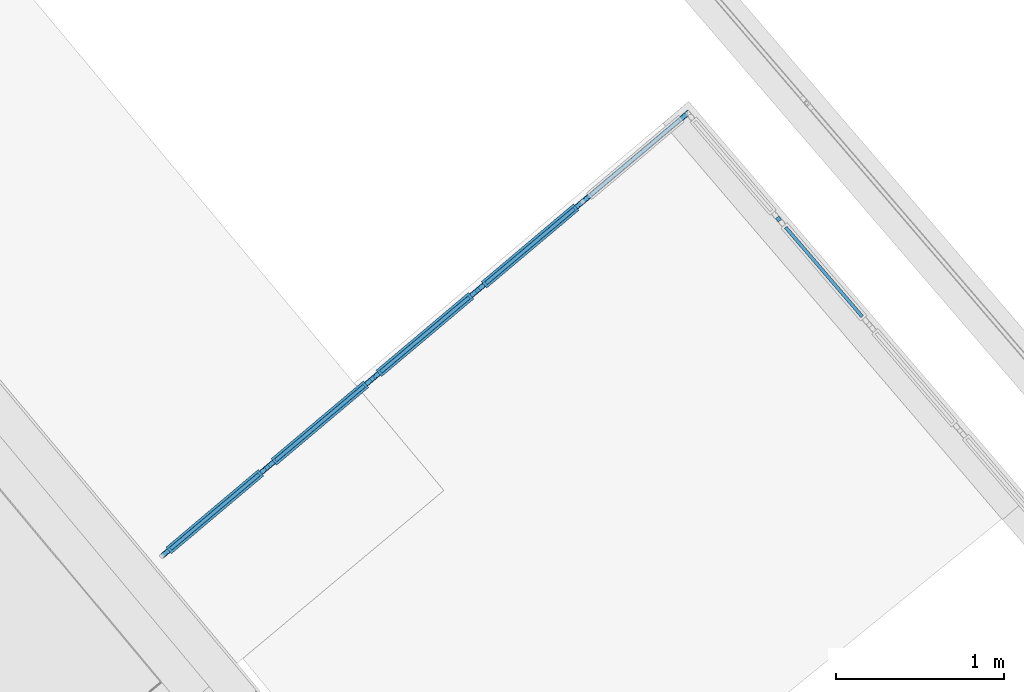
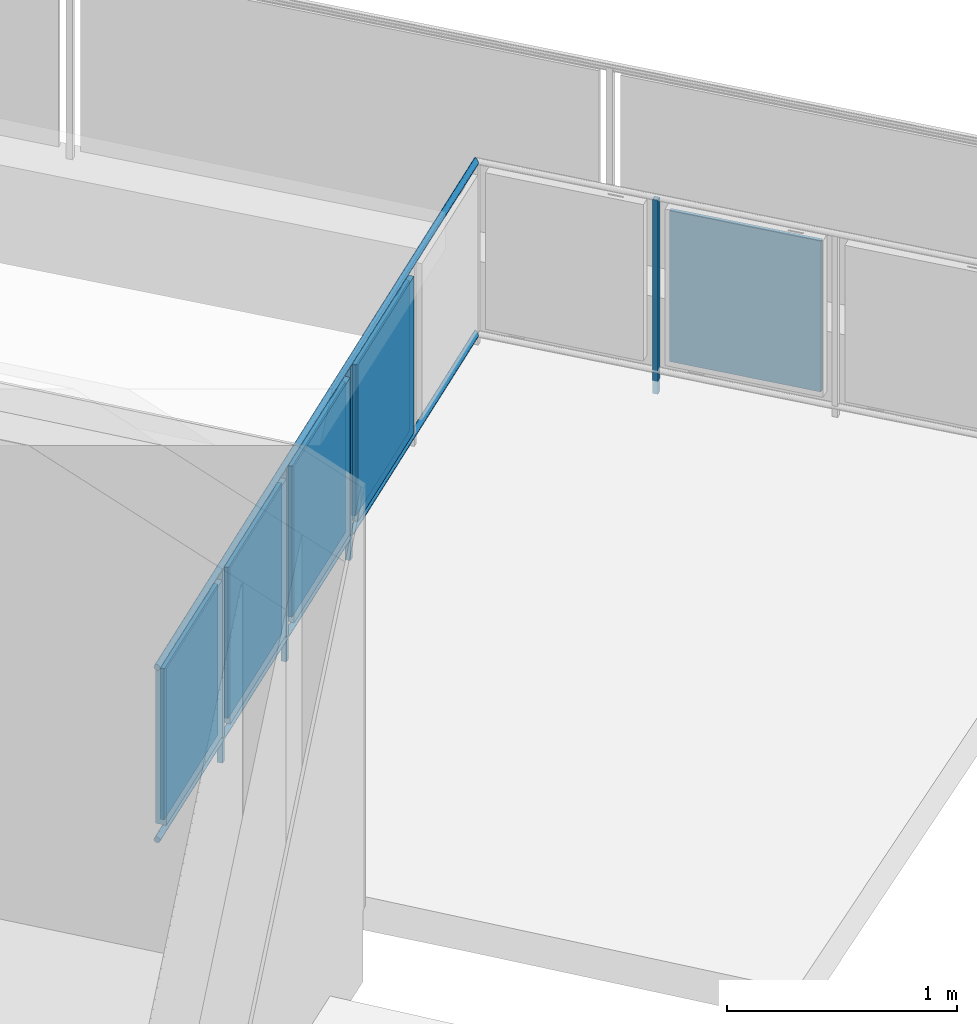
# One storey, part 49 of 75: 15 building element parts, 1 element without a shape of its own.
"""IFC4 building model written with IfcOpenShell, lengths in metres."""

from ifc_helpers import new_model, entity, si_unit, converted_unit, derived_unit, direction, frame, origin_with_axes, place, context, subcontext, project, spatial, polygons, material, type_object, element, aggregate, save


model = new_model("IFC4")

# Units and contexts
model_context = context("Model", 3, precision=1e-05, world=origin_with_axes(), true_north=direction((0.0, 1.0)))
body_context = subcontext(model_context, "Body", "Model", "MODEL_VIEW")
ifc_project = project(units=[si_unit("LENGTHUNIT", "METRE"), si_unit("AREAUNIT", "SQUARE_METRE"), si_unit("VOLUMEUNIT", "CUBIC_METRE"), converted_unit("PLANEANGLEUNIT", "DEGREE", entity("IfcPlaneAngleMeasure", 0.0174532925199), si_unit("PLANEANGLEUNIT", "RADIAN"), dimensions=[0, 0, 0, 0, 0, 0, 0]), converted_unit("TIMEUNIT", "Year", entity("IfcTimeMeasure", 31556926.0), si_unit("TIMEUNIT", "SECOND"), dimensions=[0, 0, 1, 0, 0, 0, 0]), si_unit("MASSUNIT", "GRAM", prefix="KILO"), si_unit("THERMODYNAMICTEMPERATUREUNIT", "DEGREE_CELSIUS"), si_unit("LUMINOUSINTENSITYUNIT", "LUMEN"), si_unit("ENERGYUNIT", "JOULE", prefix="MEGA"), derived_unit("THERMALCONDUCTANCEUNIT", [(si_unit("POWERUNIT", "WATT"), 1), (si_unit("LENGTHUNIT", "METRE"), -1), (si_unit("THERMODYNAMICTEMPERATUREUNIT", "KELVIN"), -1)]), derived_unit("SPECIFICHEATCAPACITYUNIT", [(si_unit("ENERGYUNIT", "JOULE"), 1), (si_unit("MASSUNIT", "GRAM", prefix="KILO"), -1), (si_unit("THERMODYNAMICTEMPERATUREUNIT", "KELVIN"), -1)]), derived_unit("MASSDENSITYUNIT", [(si_unit("MASSUNIT", "GRAM", prefix="KILO"), 1), (si_unit("VOLUMEUNIT", "CUBIC_METRE"), -1)])], contexts=[model_context])

# Site, building, storey, space
site_placement = place(None, frame((-0.00153261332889, -0.00661245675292, 0.0), z_axis=(0.0, 0.0, 1.0), x_axis=(1.0, 0.0, 0.0)))
site = spatial("IfcSite", under=ifc_project, at=site_placement, Name="Gelände", CompositionType="ELEMENT")
building_placement = place(site_placement, origin_with_axes())
building = spatial("IfcBuilding", under=site, at=building_placement, Name="Gebäude", CompositionType="ELEMENT")
storey_placement = place(building_placement, frame((0.0, 0.0, -0.22), z_axis=(0.0, 0.0, 1.0), x_axis=(1.0, 0.0, 0.0)))
storey = spatial("IfcBuildingStorey", under=building, at=storey_placement, Name="EG", CompositionType="ELEMENT", Elevation=-0.22)
space_placement = place(storey_placement, frame((13.4528825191, 20.3252443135, 0.0), z_axis=(0.0, 0.0, 1.0), x_axis=(-0.766923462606, -0.641738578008, 0.0)))
space = spatial("IfcSpace", under=storey, at=space_placement, CompositionType="ELEMENT", PredefinedType="NOTDEFINED")

# Railing, building element parts
railing_type = type_object("IfcRailingType", Name="Geländerart", PredefinedType="NOTDEFINED")
railing_placement = place(space_placement, frame((0.00343914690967, -1.03835442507, 0.38), z_axis=(0.0, 0.0, 1.0), x_axis=(-0.766923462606, 0.641738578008, 0.0)))
railing = element("IfcRailing", 1, at=railing_placement, inside=space, type_object=railing_type, Name="Geländer - 001", PredefinedType="NOTDEFINED")
ifc_material_1 = material(Name="Aluminium")
building_element_part_1_placement = place(railing_placement, origin_with_axes())
building_element_part_1 = element("IfcBuildingElementPart", 2, at=building_element_part_1_placement, material=ifc_material_1, Name="Aluminium", PredefinedType="NOTDEFINED", context=body_context, shape_type="Tessellation", body=[
    polygons([(0.022549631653, -0.0267677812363, 0.985), (0.0226964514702, -0.0269420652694, 0.987604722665), (3.15352079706, 2.61051731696, 0.987604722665), (3.15354671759, 2.61083712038, 0.985), (0.0226964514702, -0.0269420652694, 0.982395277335), (0.0231324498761, -0.0274596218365, 0.97986969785), (0.0238443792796, -0.0283047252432, 0.9775), (0.0248106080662, -0.0294516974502, 0.975358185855), (0.026001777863, -0.0308656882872, 0.973509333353), (0.0273816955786, -0.0325037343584, 0.972009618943), (0.0289084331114, -0.0343160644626, 0.970904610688), (0.0305356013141, -0.0362476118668, 0.970227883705), (0.0322137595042, -0.0382396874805, 0.97), (0.0338919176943, -0.0402317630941, 0.970227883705), (0.035519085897, -0.0421633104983, 0.970904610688), (0.0370458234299, -0.0439756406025, 0.972009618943), (0.0384257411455, -0.0456136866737, 0.973509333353), (0.0396169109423, -0.0470276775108, 0.975358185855), (0.0405831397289, -0.0481746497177, 0.9775), (0.0412950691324, -0.0490197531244, 0.97986969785), (0.0417310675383, -0.0495373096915, 0.982395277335), (0.0418778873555, -0.0497115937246, 0.985), (0.0417310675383, -0.0495373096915, 0.987604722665), (0.0412950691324, -0.0490197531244, 0.99013030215), (0.0405831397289, -0.0481746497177, 0.9925), (0.0396169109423, -0.0470276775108, 0.994641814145), (0.0384257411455, -0.0456136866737, 0.996490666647), (0.0370458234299, -0.0439756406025, 0.997990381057), (0.035519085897, -0.0421633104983, 0.999095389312), (0.0338919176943, -0.0402317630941, 0.999772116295), (0.0322137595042, -0.0382396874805, 1.0), (0.0305356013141, -0.0362476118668, 0.999772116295), (0.0289084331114, -0.0343160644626, 0.999095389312), (0.0273816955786, -0.0325037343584, 0.997990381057), (0.026001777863, -0.0308656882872, 0.996490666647), (0.0248106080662, -0.0294516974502, 0.994641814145), (0.0238443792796, -0.0283047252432, 0.9925), (0.0231324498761, -0.0274596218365, 0.99013030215), (3.15344382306, 2.60956762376, 0.99013030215), (3.1533181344, 2.60801689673, 0.9925), (3.15314755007, 2.60591225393, 0.994641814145), (3.15293725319, 2.60331764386, 0.996490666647), (3.15269363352, 2.60031190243, 0.997990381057), (3.15242409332, 2.59698635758, 0.999095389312), (3.15213682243, 2.59344205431, 0.999772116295), (3.15184054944, 2.58978668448, 1.0), (3.15154427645, 2.58613131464, 0.999772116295), (3.15125700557, 2.58258701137, 0.999095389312), (3.15098746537, 2.57926146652, 0.997990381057), (3.15074384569, 2.57625572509, 0.996490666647), (3.15053354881, 2.57366111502, 0.994641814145), (3.15036296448, 2.57155647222, 0.9925), (3.15023727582, 2.57000574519, 0.99013030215), (3.15016030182, 2.56905605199, 0.987604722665), (3.15013438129, 2.56873624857, 0.985), (3.15016030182, 2.56905605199, 0.982395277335), (3.15023727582, 2.57000574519, 0.97986969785), (3.15036296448, 2.57155647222, 0.9775), (3.15053354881, 2.57366111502, 0.975358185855), (3.15074384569, 2.57625572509, 0.973509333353), (3.15098746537, 2.57926146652, 0.972009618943), (3.15125700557, 2.58258701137, 0.970904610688), (3.15154427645, 2.58613131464, 0.970227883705), (3.15184054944, 2.58978668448, 0.97), (3.15213682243, 2.59344205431, 0.970227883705), (3.15242409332, 2.59698635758, 0.970904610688), (3.15269363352, 2.60031190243, 0.972009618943), (3.15293725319, 2.60331764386, 0.973509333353), (3.15314755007, 2.60591225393, 0.975358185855), (3.1533181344, 2.60801689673, 0.9775), (3.15344382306, 2.60956762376, 0.97986969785), (3.15352079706, 2.61051731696, 0.982395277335)], [[[1, 2, 3, 4]], [[1, 5, 6, 7, 8, 9, 10, 11, 12, 13, 14, 15, 16, 17, 18, 19, 20, 21, 22, 23, 24, 25, 26, 27, 28, 29, 30, 31, 32, 33, 34, 35, 36, 37, 38, 2]], [[2, 38, 39, 3]], [[4, 3, 39, 40, 41, 42, 43, 44, 45, 46, 47, 48, 49, 50, 51, 52, 53, 54, 55, 56, 57, 58, 59, 60, 61, 62, 63, 64, 65, 66, 67, 68, 69, 70, 71, 72]], [[5, 1, 4, 72]], [[6, 5, 72, 71]], [[7, 6, 71, 70]], [[8, 7, 70, 69]], [[9, 8, 69, 68]], [[10, 9, 68, 67]], [[11, 10, 67, 66]], [[12, 11, 66, 65]], [[13, 12, 65, 64]], [[14, 13, 64, 63]], [[15, 14, 63, 62]], [[16, 15, 62, 61]], [[17, 16, 61, 60]], [[18, 17, 60, 59]], [[19, 18, 59, 58]], [[20, 19, 58, 57]], [[21, 20, 57, 56]], [[22, 21, 56, 55]], [[23, 22, 55, 54]], [[24, 23, 54, 53]], [[25, 24, 53, 52]], [[26, 25, 52, 51]], [[27, 26, 51, 50]], [[28, 27, 50, 49]], [[29, 28, 49, 48]], [[30, 29, 48, 47]], [[31, 30, 47, 46]], [[32, 31, 46, 45]], [[33, 32, 45, 44]], [[34, 33, 44, 43]], [[35, 34, 43, 42]], [[36, 35, 42, 41]], [[37, 36, 41, 40]], [[38, 37, 40, 39]]], closed=True),
])
building_element_part_2_placement = place(railing_placement, origin_with_axes())
building_element_part_2 = element("IfcBuildingElementPart", 3, at=building_element_part_2_placement, material=ifc_material_1, Name="Aluminium", PredefinedType="NOTDEFINED", context=body_context, shape_type="Tessellation", body=[
    polygons([(0.022549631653, -0.0267677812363, 0.07), (0.0226964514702, -0.0269420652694, 0.072604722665), (3.15352079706, 2.61051731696, 0.072604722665), (3.15354671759, 2.61083712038, 0.07), (0.0226964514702, -0.0269420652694, 0.067395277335), (0.0231324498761, -0.0274596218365, 0.0648696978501), (0.0238443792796, -0.0283047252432, 0.0625), (0.0248106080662, -0.0294516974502, 0.0603581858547), (0.026001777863, -0.0308656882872, 0.0585093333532), (0.0273816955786, -0.0325037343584, 0.0570096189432), (0.0289084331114, -0.0343160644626, 0.0559046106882), (0.0305356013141, -0.0362476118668, 0.0552278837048), (0.0322137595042, -0.0382396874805, 0.055), (0.0338919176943, -0.0402317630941, 0.0552278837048), (0.035519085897, -0.0421633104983, 0.0559046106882), (0.0370458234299, -0.0439756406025, 0.0570096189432), (0.0384257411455, -0.0456136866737, 0.0585093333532), (0.0396169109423, -0.0470276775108, 0.0603581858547), (0.0405831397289, -0.0481746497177, 0.0625), (0.0412950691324, -0.0490197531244, 0.0648696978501), (0.0417310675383, -0.0495373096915, 0.067395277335), (0.0418778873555, -0.0497115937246, 0.07), (0.0417310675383, -0.0495373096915, 0.072604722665), (0.0412950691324, -0.0490197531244, 0.0751303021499), (0.0405831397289, -0.0481746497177, 0.0775), (0.0396169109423, -0.0470276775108, 0.0796418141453), (0.0384257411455, -0.0456136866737, 0.0814906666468), (0.0370458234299, -0.0439756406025, 0.0829903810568), (0.035519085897, -0.0421633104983, 0.0840953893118), (0.0338919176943, -0.0402317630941, 0.0847721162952), (0.0322137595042, -0.0382396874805, 0.085), (0.0305356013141, -0.0362476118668, 0.0847721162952), (0.0289084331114, -0.0343160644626, 0.0840953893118), (0.0273816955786, -0.0325037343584, 0.0829903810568), (0.026001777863, -0.0308656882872, 0.0814906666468), (0.0248106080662, -0.0294516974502, 0.0796418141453), (0.0238443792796, -0.0283047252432, 0.0775), (0.0231324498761, -0.0274596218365, 0.0751303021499), (3.15344382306, 2.60956762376, 0.0751303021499), (3.1533181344, 2.60801689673, 0.0775), (3.15314755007, 2.60591225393, 0.0796418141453), (3.15293725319, 2.60331764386, 0.0814906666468), (3.15269363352, 2.60031190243, 0.0829903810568), (3.15242409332, 2.59698635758, 0.0840953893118), (3.15213682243, 2.59344205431, 0.0847721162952), (3.15184054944, 2.58978668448, 0.085), (3.15154427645, 2.58613131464, 0.0847721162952), (3.15125700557, 2.58258701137, 0.0840953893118), (3.15098746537, 2.57926146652, 0.0829903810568), (3.15074384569, 2.57625572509, 0.0814906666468), (3.15053354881, 2.57366111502, 0.0796418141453), (3.15036296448, 2.57155647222, 0.0775), (3.15023727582, 2.57000574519, 0.0751303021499), (3.15016030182, 2.56905605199, 0.072604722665), (3.15013438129, 2.56873624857, 0.07), (3.15016030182, 2.56905605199, 0.067395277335), (3.15023727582, 2.57000574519, 0.0648696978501), (3.15036296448, 2.57155647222, 0.0625), (3.15053354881, 2.57366111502, 0.0603581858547), (3.15074384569, 2.57625572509, 0.0585093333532), (3.15098746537, 2.57926146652, 0.0570096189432), (3.15125700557, 2.58258701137, 0.0559046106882), (3.15154427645, 2.58613131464, 0.0552278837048), (3.15184054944, 2.58978668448, 0.055), (3.15213682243, 2.59344205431, 0.0552278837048), (3.15242409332, 2.59698635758, 0.0559046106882), (3.15269363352, 2.60031190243, 0.0570096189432), (3.15293725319, 2.60331764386, 0.0585093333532), (3.15314755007, 2.60591225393, 0.0603581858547), (3.1533181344, 2.60801689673, 0.0625), (3.15344382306, 2.60956762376, 0.0648696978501), (3.15352079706, 2.61051731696, 0.067395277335)], [[[1, 2, 3, 4]], [[1, 5, 6, 7, 8, 9, 10, 11, 12, 13, 14, 15, 16, 17, 18, 19, 20, 21, 22, 23, 24, 25, 26, 27, 28, 29, 30, 31, 32, 33, 34, 35, 36, 37, 38, 2]], [[2, 38, 39, 3]], [[4, 3, 39, 40, 41, 42, 43, 44, 45, 46, 47, 48, 49, 50, 51, 52, 53, 54, 55, 56, 57, 58, 59, 60, 61, 62, 63, 64, 65, 66, 67, 68, 69, 70, 71, 72]], [[5, 1, 4, 72]], [[6, 5, 72, 71]], [[7, 6, 71, 70]], [[8, 7, 70, 69]], [[9, 8, 69, 68]], [[10, 9, 68, 67]], [[11, 10, 67, 66]], [[12, 11, 66, 65]], [[13, 12, 65, 64]], [[14, 13, 64, 63]], [[15, 14, 63, 62]], [[16, 15, 62, 61]], [[17, 16, 61, 60]], [[18, 17, 60, 59]], [[19, 18, 59, 58]], [[20, 19, 58, 57]], [[21, 20, 57, 56]], [[22, 21, 56, 55]], [[23, 22, 55, 54]], [[24, 23, 54, 53]], [[25, 24, 53, 52]], [[26, 25, 52, 51]], [[27, 26, 51, 50]], [[28, 27, 50, 49]], [[29, 28, 49, 48]], [[30, 29, 48, 47]], [[31, 30, 47, 46]], [[32, 31, 46, 45]], [[33, 32, 45, 44]], [[34, 33, 44, 43]], [[35, 34, 43, 42]], [[36, 35, 42, 41]], [[37, 36, 41, 40]], [[38, 37, 40, 39]]], closed=True),
])
ifc_material_2 = material(Name="Profilit")
building_element_part_3_placement = place(railing_placement, origin_with_axes())
building_element_part_3 = element("IfcBuildingElementPart", 4, at=building_element_part_3_placement, material=ifc_material_2, Name="Profilit", PredefinedType="NOTDEFINED", context=body_context, shape_type="Tessellation", body=[
    polygons([(0.599984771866, 0.453135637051, 0.135), (0.075482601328, 0.0112861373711, 0.135), (0.075482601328, 0.0112861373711, 0.935), (0.599984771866, 0.453135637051, 0.935), (0.0883681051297, -0.00400973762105, 0.135), (0.612870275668, 0.437839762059, 0.135), (0.0883681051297, -0.00400973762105, 0.935), (0.612870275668, 0.437839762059, 0.935)], [[[1, 2, 3, 4]], [[5, 2, 1, 6]], [[7, 3, 2, 5]], [[4, 3, 7, 8]], [[1, 4, 8, 6]], [[7, 5, 6, 8]]], closed=True),
])
building_element_part_4_placement = place(railing_placement, origin_with_axes())
building_element_part_4 = element("IfcBuildingElementPart", 5, at=building_element_part_4_placement, material=ifc_material_1, Name="Aluminium", PredefinedType="NOTDEFINED", context=body_context, shape_type="Tessellation", body=[
    polygons([(0.14532213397, 0.0603135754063, 0.12), (0.198857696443, 0.105412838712, 0.12), (0.198857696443, 0.105412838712, 0.095), (0.14532213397, 0.0603135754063, 0.095), (0.148543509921, 0.0564896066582, 0.12), (0.202079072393, 0.101588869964, 0.12), (0.202079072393, 0.101588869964, 0.095), (0.148543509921, 0.0564896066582, 0.095)], [[[1, 2, 3, 4]], [[5, 6, 2, 1]], [[2, 6, 7, 3]], [[4, 3, 7, 8]], [[1, 4, 8, 5]], [[8, 7, 6, 5]]], closed=True),
    polygons([(0.539809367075, 0.392636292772, 0.95), (0.486273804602, 0.347537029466, 0.95), (0.486273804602, 0.347537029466, 0.955), (0.539809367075, 0.392636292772, 0.955), (0.543030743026, 0.388812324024, 0.95), (0.489495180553, 0.343713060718, 0.95), (0.489495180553, 0.343713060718, 0.955), (0.543030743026, 0.388812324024, 0.955)], [[[1, 2, 3, 4]], [[5, 6, 2, 1]], [[2, 6, 7, 3]], [[4, 3, 7, 8]], [[1, 4, 8, 5]], [[8, 7, 6, 5]]], closed=True),
    polygons([(0.0865603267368, -0.0251457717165, 0.12), (0.0543465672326, 0.013093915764, 0.12), (0.601792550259, 0.474271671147, 0.12), (0.634006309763, 0.436031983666, 0.12), (0.101856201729, -0.0122602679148, 0.14), (0.0921920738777, -0.000788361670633, 0.14), (0.0883681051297, -0.00400973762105, 0.135), (0.075482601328, 0.0112861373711, 0.135), (0.079306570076, 0.0145075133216, 0.14), (0.0696424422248, 0.0259794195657, 0.14), (0.586496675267, 0.461386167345, 0.14), (0.586496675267, 0.461386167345, 0.93), (0.0696424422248, 0.0259794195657, 0.93), (0.0696424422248, 0.0259794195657, 0.14), (0.0543465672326, 0.013093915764, 0.12), (0.0543465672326, 0.013093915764, 0.95), (0.601792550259, 0.474271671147, 0.95), (0.634006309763, 0.436031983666, 0.95), (0.0865603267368, -0.0251457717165, 0.95), (0.0865603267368, -0.0251457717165, 0.12), (0.101856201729, -0.0122602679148, 0.14), (0.101856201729, -0.0122602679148, 0.93), (0.618710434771, 0.423146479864, 0.93), (0.618710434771, 0.423146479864, 0.14), (0.60904630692, 0.434618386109, 0.14), (0.60904630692, 0.434618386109, 0.93), (0.0921920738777, -0.000788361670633, 0.93), (0.0921920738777, -0.000788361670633, 0.14), (0.0883681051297, -0.00400973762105, 0.135), (0.0883681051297, -0.00400973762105, 0.935), (0.612870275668, 0.437839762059, 0.935), (0.612870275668, 0.437839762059, 0.135), (0.599984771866, 0.453135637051, 0.135), (0.599984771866, 0.453135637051, 0.935), (0.075482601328, 0.0112861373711, 0.935), (0.075482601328, 0.0112861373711, 0.135), (0.079306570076, 0.0145075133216, 0.14), (0.079306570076, 0.0145075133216, 0.93), (0.596160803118, 0.449914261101, 0.93), (0.596160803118, 0.449914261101, 0.14)], [[[1, 2, 3, 4]], [[1, 5, 6, 7, 8, 9, 10, 2]], [[2, 10, 11, 12, 13, 14, 15, 16, 17, 3]], [[4, 3, 17, 18]], [[5, 1, 4, 18, 19, 20, 21, 22, 23, 24]], [[6, 5, 24, 25]], [[7, 6, 25, 26, 27, 28, 29, 30, 31, 32]], [[8, 7, 32, 33]], [[9, 8, 33, 34, 35, 36, 37, 38, 39, 40]], [[10, 9, 40, 11]], [[11, 40, 39, 12]], [[12, 39, 38, 13]], [[13, 38, 37, 14]], [[20, 15, 14, 37, 36, 29, 28, 21]], [[19, 16, 15, 20]], [[18, 17, 16, 19]], [[27, 22, 21, 28]], [[26, 23, 22, 27]], [[25, 24, 23, 26]], [[35, 30, 29, 36]], [[34, 31, 30, 35]], [[33, 32, 31, 34]]], closed=True),
])
building_element_part_5_placement = place(railing_placement, origin_with_axes())
building_element_part_5 = element("IfcBuildingElementPart", 6, at=building_element_part_5_placement, material=ifc_material_1, Name="Aluminium", PredefinedType="NOTDEFINED", context=body_context, shape_type="Tessellation", body=[
    polygons([(0.673752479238, 0.485859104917, -0.05), (0.657645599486, 0.504978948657, -0.05), (0.657645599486, 0.504978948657, 0.98), (0.673752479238, 0.485859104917, 0.98), (0.654632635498, 0.469752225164, -0.05), (0.638525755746, 0.488872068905, -0.05), (0.638525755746, 0.488872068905, 0.98), (0.654632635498, 0.469752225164, 0.98)], [[[1, 2, 3, 4]], [[1, 5, 6, 2]], [[2, 6, 7, 3]], [[4, 3, 7, 8]], [[5, 1, 4, 8]], [[6, 5, 8, 7]]], closed=True),
])
building_element_part_6_placement = place(railing_placement, origin_with_axes())
building_element_part_6 = element("IfcBuildingElementPart", 7, at=building_element_part_6_placement, material=ifc_material_2, Name="Profilit", PredefinedType="NOTDEFINED", context=body_context, shape_type="Tessellation", body=[
    polygons([(1.22391012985, 0.978740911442, 0.135), (0.699407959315, 0.536891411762, 0.135), (0.699407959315, 0.536891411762, 0.935), (1.22391012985, 0.978740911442, 0.935), (0.712293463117, 0.52159553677, 0.135), (1.23679563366, 0.96344503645, 0.135), (0.712293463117, 0.52159553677, 0.935), (1.23679563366, 0.96344503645, 0.935)], [[[1, 2, 3, 4]], [[5, 2, 1, 6]], [[7, 3, 2, 5]], [[4, 3, 7, 8]], [[1, 4, 8, 6]], [[7, 5, 6, 8]]], closed=True),
])
building_element_part_7_placement = place(railing_placement, origin_with_axes())
building_element_part_7 = element("IfcBuildingElementPart", 8, at=building_element_part_7_placement, material=ifc_material_1, Name="Aluminium", PredefinedType="NOTDEFINED", context=body_context, shape_type="Tessellation", body=[
    polygons([(0.769247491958, 0.585918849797, 0.12), (0.822783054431, 0.631018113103, 0.12), (0.822783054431, 0.631018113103, 0.095), (0.769247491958, 0.585918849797, 0.095), (0.772468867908, 0.582094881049, 0.12), (0.826004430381, 0.627194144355, 0.12), (0.826004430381, 0.627194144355, 0.095), (0.772468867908, 0.582094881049, 0.095)], [[[1, 2, 3, 4]], [[5, 6, 2, 1]], [[2, 6, 7, 3]], [[4, 3, 7, 8]], [[1, 4, 8, 5]], [[8, 7, 6, 5]]], closed=True),
    polygons([(1.16373472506, 0.918241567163, 0.95), (1.11019916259, 0.873142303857, 0.95), (1.11019916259, 0.873142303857, 0.955), (1.16373472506, 0.918241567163, 0.955), (1.16695610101, 0.914417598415, 0.95), (1.11342053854, 0.869318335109, 0.95), (1.11342053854, 0.869318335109, 0.955), (1.16695610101, 0.914417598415, 0.955)], [[[1, 2, 3, 4]], [[5, 6, 2, 1]], [[2, 6, 7, 3]], [[4, 3, 7, 8]], [[1, 4, 8, 5]], [[8, 7, 6, 5]]], closed=True),
    polygons([(0.710485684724, 0.500459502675, 0.12), (0.67827192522, 0.538699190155, 0.12), (1.22571790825, 0.999876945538, 0.12), (1.25793166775, 0.961637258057, 0.12), (0.725781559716, 0.513345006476, 0.14), (0.716117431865, 0.52481691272, 0.14), (0.712293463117, 0.52159553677, 0.135), (0.699407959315, 0.536891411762, 0.135), (0.703231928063, 0.540112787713, 0.14), (0.693567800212, 0.551584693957, 0.14), (1.21042203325, 0.986991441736, 0.14), (1.21042203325, 0.986991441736, 0.93), (0.693567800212, 0.551584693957, 0.93), (0.693567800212, 0.551584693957, 0.14), (0.67827192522, 0.538699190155, 0.12), (0.67827192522, 0.538699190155, 0.95), (1.22571790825, 0.999876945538, 0.95), (1.25793166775, 0.961637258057, 0.95), (0.710485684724, 0.500459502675, 0.95), (0.710485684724, 0.500459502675, 0.12), (0.725781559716, 0.513345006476, 0.14), (0.725781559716, 0.513345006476, 0.93), (1.24263579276, 0.948751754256, 0.93), (1.24263579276, 0.948751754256, 0.14), (1.23297166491, 0.9602236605, 0.14), (1.23297166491, 0.9602236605, 0.93), (0.716117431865, 0.52481691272, 0.93), (0.716117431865, 0.52481691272, 0.14), (0.712293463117, 0.52159553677, 0.135), (0.712293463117, 0.52159553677, 0.935), (1.23679563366, 0.96344503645, 0.935), (1.23679563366, 0.96344503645, 0.135), (1.22391012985, 0.978740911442, 0.135), (1.22391012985, 0.978740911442, 0.935), (0.699407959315, 0.536891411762, 0.935), (0.699407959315, 0.536891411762, 0.135), (0.703231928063, 0.540112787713, 0.14), (0.703231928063, 0.540112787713, 0.93), (1.22008616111, 0.975519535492, 0.93), (1.22008616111, 0.975519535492, 0.14)], [[[1, 2, 3, 4]], [[1, 5, 6, 7, 8, 9, 10, 2]], [[2, 10, 11, 12, 13, 14, 15, 16, 17, 3]], [[4, 3, 17, 18]], [[5, 1, 4, 18, 19, 20, 21, 22, 23, 24]], [[6, 5, 24, 25]], [[7, 6, 25, 26, 27, 28, 29, 30, 31, 32]], [[8, 7, 32, 33]], [[9, 8, 33, 34, 35, 36, 37, 38, 39, 40]], [[10, 9, 40, 11]], [[11, 40, 39, 12]], [[12, 39, 38, 13]], [[13, 38, 37, 14]], [[20, 15, 14, 37, 36, 29, 28, 21]], [[19, 16, 15, 20]], [[18, 17, 16, 19]], [[27, 22, 21, 28]], [[26, 23, 22, 27]], [[25, 24, 23, 26]], [[35, 30, 29, 36]], [[34, 31, 30, 35]], [[33, 32, 31, 34]]], closed=True),
])
building_element_part_8_placement = place(railing_placement, origin_with_axes())
building_element_part_8 = element("IfcBuildingElementPart", 9, at=building_element_part_8_placement, material=ifc_material_1, Name="Aluminium", PredefinedType="NOTDEFINED", context=body_context, shape_type="Tessellation", body=[
    polygons([(1.29767783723, 1.01146437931, -0.05), (1.28157095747, 1.03058422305, -0.05), (1.28157095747, 1.03058422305, 0.98), (1.29767783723, 1.01146437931, 0.98), (1.27855799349, 0.995357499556, -0.05), (1.26245111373, 1.0144773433, -0.05), (1.26245111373, 1.0144773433, 0.98), (1.27855799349, 0.995357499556, 0.98)], [[[1, 2, 3, 4]], [[1, 5, 6, 2]], [[2, 6, 7, 3]], [[4, 3, 7, 8]], [[5, 1, 4, 8]], [[6, 5, 8, 7]]], closed=True),
])
building_element_part_9_placement = place(railing_placement, origin_with_axes())
building_element_part_9 = element("IfcBuildingElementPart", 10, at=building_element_part_9_placement, material=ifc_material_2, Name="Profilit", PredefinedType="NOTDEFINED", context=body_context, shape_type="Tessellation", body=[
    polygons([(1.84783548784, 1.50434618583, 0.135), (1.3233333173, 1.06249668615, 0.135), (1.3233333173, 1.06249668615, 0.935), (1.84783548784, 1.50434618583, 0.935), (1.3362188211, 1.04720081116, 0.135), (1.86072099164, 1.48905031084, 0.135), (1.3362188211, 1.04720081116, 0.935), (1.86072099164, 1.48905031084, 0.935)], [[[1, 2, 3, 4]], [[5, 2, 1, 6]], [[7, 3, 2, 5]], [[4, 3, 7, 8]], [[1, 4, 8, 6]], [[7, 5, 6, 8]]], closed=True),
])
building_element_part_10_placement = place(railing_placement, origin_with_axes())
building_element_part_10 = element("IfcBuildingElementPart", 11, at=building_element_part_10_placement, material=ifc_material_1, Name="Aluminium", PredefinedType="NOTDEFINED", context=body_context, shape_type="Tessellation", body=[
    polygons([(1.39317284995, 1.11152412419, 0.12), (1.44670841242, 1.15662338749, 0.12), (1.44670841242, 1.15662338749, 0.095), (1.39317284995, 1.11152412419, 0.095), (1.3963942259, 1.10770015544, 0.12), (1.44992978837, 1.15279941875, 0.12), (1.44992978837, 1.15279941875, 0.095), (1.3963942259, 1.10770015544, 0.095)], [[[1, 2, 3, 4]], [[5, 6, 2, 1]], [[2, 6, 7, 3]], [[4, 3, 7, 8]], [[1, 4, 8, 5]], [[8, 7, 6, 5]]], closed=True),
    polygons([(1.78766008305, 1.44384684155, 0.95), (1.73412452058, 1.39874757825, 0.95), (1.73412452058, 1.39874757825, 0.955), (1.78766008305, 1.44384684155, 0.955), (1.790881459, 1.44002287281, 0.95), (1.73734589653, 1.3949236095, 0.95), (1.73734589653, 1.3949236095, 0.955), (1.790881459, 1.44002287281, 0.955)], [[[1, 2, 3, 4]], [[5, 6, 2, 1]], [[2, 6, 7, 3]], [[4, 3, 7, 8]], [[1, 4, 8, 5]], [[8, 7, 6, 5]]], closed=True),
    polygons([(1.33441104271, 1.02606477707, 0.12), (1.30219728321, 1.06430446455, 0.12), (1.84964326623, 1.52548221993, 0.12), (1.88185702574, 1.48724253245, 0.12), (1.3497069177, 1.03895028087, 0.14), (1.34004278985, 1.05042218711, 0.14), (1.3362188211, 1.04720081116, 0.135), (1.3233333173, 1.06249668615, 0.135), (1.32715728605, 1.0657180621, 0.14), (1.3174931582, 1.07718996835, 0.14), (1.83434739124, 1.51259671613, 0.14), (1.83434739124, 1.51259671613, 0.93), (1.3174931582, 1.07718996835, 0.93), (1.3174931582, 1.07718996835, 0.14), (1.30219728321, 1.06430446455, 0.12), (1.30219728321, 1.06430446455, 0.95), (1.84964326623, 1.52548221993, 0.95), (1.88185702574, 1.48724253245, 0.95), (1.33441104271, 1.02606477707, 0.95), (1.33441104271, 1.02606477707, 0.12), (1.3497069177, 1.03895028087, 0.14), (1.3497069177, 1.03895028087, 0.93), (1.86656115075, 1.47435702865, 0.93), (1.86656115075, 1.47435702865, 0.14), (1.85689702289, 1.48582893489, 0.14), (1.85689702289, 1.48582893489, 0.93), (1.34004278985, 1.05042218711, 0.93), (1.34004278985, 1.05042218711, 0.14), (1.3362188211, 1.04720081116, 0.135), (1.3362188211, 1.04720081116, 0.935), (1.86072099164, 1.48905031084, 0.935), (1.86072099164, 1.48905031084, 0.135), (1.84783548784, 1.50434618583, 0.135), (1.84783548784, 1.50434618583, 0.935), (1.3233333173, 1.06249668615, 0.935), (1.3233333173, 1.06249668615, 0.135), (1.32715728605, 1.0657180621, 0.14), (1.32715728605, 1.0657180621, 0.93), (1.84401151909, 1.50112480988, 0.93), (1.84401151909, 1.50112480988, 0.14)], [[[1, 2, 3, 4]], [[1, 5, 6, 7, 8, 9, 10, 2]], [[2, 10, 11, 12, 13, 14, 15, 16, 17, 3]], [[4, 3, 17, 18]], [[5, 1, 4, 18, 19, 20, 21, 22, 23, 24]], [[6, 5, 24, 25]], [[7, 6, 25, 26, 27, 28, 29, 30, 31, 32]], [[8, 7, 32, 33]], [[9, 8, 33, 34, 35, 36, 37, 38, 39, 40]], [[10, 9, 40, 11]], [[11, 40, 39, 12]], [[12, 39, 38, 13]], [[13, 38, 37, 14]], [[20, 15, 14, 37, 36, 29, 28, 21]], [[19, 16, 15, 20]], [[18, 17, 16, 19]], [[27, 22, 21, 28]], [[26, 23, 22, 27]], [[25, 24, 23, 26]], [[35, 30, 29, 36]], [[34, 31, 30, 35]], [[33, 32, 31, 34]]], closed=True),
])
building_element_part_11_placement = place(railing_placement, origin_with_axes())
building_element_part_11 = element("IfcBuildingElementPart", 12, at=building_element_part_11_placement, material=ifc_material_1, Name="Aluminium", PredefinedType="NOTDEFINED", context=body_context, shape_type="Tessellation", body=[
    polygons([(1.92160319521, 1.5370696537, -0.05), (1.90549631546, 1.55618949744, -0.05), (1.90549631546, 1.55618949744, 0.98), (1.92160319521, 1.5370696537, 0.98), (1.90248335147, 1.52096277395, -0.05), (1.88637647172, 1.54008261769, -0.05), (1.88637647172, 1.54008261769, 0.98), (1.90248335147, 1.52096277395, 0.98)], [[[1, 2, 3, 4]], [[1, 5, 6, 2]], [[2, 6, 7, 3]], [[4, 3, 7, 8]], [[5, 1, 4, 8]], [[6, 5, 8, 7]]], closed=True),
])
building_element_part_12_placement = place(railing_placement, origin_with_axes())
building_element_part_12 = element("IfcBuildingElementPart", 13, at=building_element_part_12_placement, material=ifc_material_2, Name="Profilit", PredefinedType="NOTDEFINED", context=body_context, shape_type="Tessellation", body=[
    polygons([(2.47176084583, 2.02995146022, 0.135), (1.94725867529, 1.58810196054, 0.135), (1.94725867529, 1.58810196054, 0.935), (2.47176084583, 2.02995146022, 0.935), (1.96014417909, 1.57280608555, 0.135), (2.48464634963, 2.01465558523, 0.135), (1.96014417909, 1.57280608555, 0.935), (2.48464634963, 2.01465558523, 0.935)], [[[1, 2, 3, 4]], [[5, 2, 1, 6]], [[7, 3, 2, 5]], [[4, 3, 7, 8]], [[1, 4, 8, 6]], [[7, 5, 6, 8]]], closed=True),
])
building_element_part_13_placement = place(railing_placement, origin_with_axes())
building_element_part_13 = element("IfcBuildingElementPart", 14, at=building_element_part_13_placement, material=ifc_material_1, Name="Aluminium", PredefinedType="NOTDEFINED", context=body_context, shape_type="Tessellation", body=[
    polygons([(2.01709820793, 1.63712939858, 0.12), (2.07063377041, 1.68222866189, 0.12), (2.07063377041, 1.68222866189, 0.095), (2.01709820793, 1.63712939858, 0.095), (2.02031958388, 1.63330542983, 0.12), (2.07385514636, 1.67840469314, 0.12), (2.07385514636, 1.67840469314, 0.095), (2.02031958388, 1.63330542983, 0.095)], [[[1, 2, 3, 4]], [[5, 6, 2, 1]], [[2, 6, 7, 3]], [[4, 3, 7, 8]], [[1, 4, 8, 5]], [[8, 7, 6, 5]]], closed=True),
    polygons([(2.41158544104, 1.96945211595, 0.95), (2.35804987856, 1.92435285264, 0.95), (2.35804987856, 1.92435285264, 0.955), (2.41158544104, 1.96945211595, 0.955), (2.41480681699, 1.9656281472, 0.95), (2.36127125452, 1.92052888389, 0.95), (2.36127125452, 1.92052888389, 0.955), (2.41480681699, 1.9656281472, 0.955)], [[[1, 2, 3, 4]], [[5, 6, 2, 1]], [[2, 6, 7, 3]], [[4, 3, 7, 8]], [[1, 4, 8, 5]], [[8, 7, 6, 5]]], closed=True),
    polygons([(1.9583364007, 1.55167005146, 0.12), (1.92612264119, 1.58990973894, 0.12), (2.47356862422, 2.05108749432, 0.12), (2.50578238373, 2.01284780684, 0.12), (1.97363227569, 1.56455555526, 0.14), (1.96396814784, 1.5760274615, 0.14), (1.96014417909, 1.57280608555, 0.135), (1.94725867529, 1.58810196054, 0.135), (1.95108264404, 1.59132333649, 0.14), (1.94141851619, 1.60279524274, 0.14), (2.45827274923, 2.03820199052, 0.14), (2.45827274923, 2.03820199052, 0.93), (1.94141851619, 1.60279524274, 0.93), (1.94141851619, 1.60279524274, 0.14), (1.92612264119, 1.58990973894, 0.12), (1.92612264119, 1.58990973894, 0.95), (2.47356862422, 2.05108749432, 0.95), (2.50578238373, 2.01284780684, 0.95), (1.9583364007, 1.55167005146, 0.95), (1.9583364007, 1.55167005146, 0.12), (1.97363227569, 1.56455555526, 0.14), (1.97363227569, 1.56455555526, 0.93), (2.49048650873, 1.99996230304, 0.93), (2.49048650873, 1.99996230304, 0.14), (2.48082238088, 2.01143420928, 0.14), (2.48082238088, 2.01143420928, 0.93), (1.96396814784, 1.5760274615, 0.93), (1.96396814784, 1.5760274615, 0.14), (1.96014417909, 1.57280608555, 0.135), (1.96014417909, 1.57280608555, 0.935), (2.48464634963, 2.01465558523, 0.935), (2.48464634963, 2.01465558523, 0.135), (2.47176084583, 2.02995146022, 0.135), (2.47176084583, 2.02995146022, 0.935), (1.94725867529, 1.58810196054, 0.935), (1.94725867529, 1.58810196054, 0.135), (1.95108264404, 1.59132333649, 0.14), (1.95108264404, 1.59132333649, 0.93), (2.46793687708, 2.02673008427, 0.93), (2.46793687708, 2.02673008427, 0.14)], [[[1, 2, 3, 4]], [[1, 5, 6, 7, 8, 9, 10, 2]], [[2, 10, 11, 12, 13, 14, 15, 16, 17, 3]], [[4, 3, 17, 18]], [[5, 1, 4, 18, 19, 20, 21, 22, 23, 24]], [[6, 5, 24, 25]], [[7, 6, 25, 26, 27, 28, 29, 30, 31, 32]], [[8, 7, 32, 33]], [[9, 8, 33, 34, 35, 36, 37, 38, 39, 40]], [[10, 9, 40, 11]], [[11, 40, 39, 12]], [[12, 39, 38, 13]], [[13, 38, 37, 14]], [[20, 15, 14, 37, 36, 29, 28, 21]], [[19, 16, 15, 20]], [[18, 17, 16, 19]], [[27, 22, 21, 28]], [[26, 23, 22, 27]], [[25, 24, 23, 26]], [[35, 30, 29, 36]], [[34, 31, 30, 35]], [[33, 32, 31, 34]]], closed=True),
])
building_element_part_14_placement = place(railing_placement, origin_with_axes())
building_element_part_14 = element("IfcBuildingElementPart", 15, at=building_element_part_14_placement, material=ifc_material_1, Name="Aluminium", PredefinedType="NOTDEFINED", context=body_context, shape_type="Tessellation", body=[
    polygons([(3.68919273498, 1.94411441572, -0.05), (3.70816852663, 1.96039075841, -0.05), (3.70816852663, 1.96039075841, 0.98), (3.68919273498, 1.94411441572, 0.98), (3.67291639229, 1.96309020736, -0.05), (3.69189218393, 1.97936655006, -0.05), (3.69189218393, 1.97936655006, 0.98), (3.67291639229, 1.96309020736, 0.98)], [[[1, 2, 3, 4]], [[1, 5, 6, 2]], [[2, 6, 7, 3]], [[4, 3, 7, 8]], [[5, 1, 4, 8]], [[6, 5, 8, 7]]], closed=True),
])
building_element_part_15_placement = place(railing_placement, origin_with_axes())
building_element_part_15 = element("IfcBuildingElementPart", 16, at=building_element_part_15_placement, material=ifc_material_2, Name="Profilit", PredefinedType="NOTDEFINED", context=body_context, shape_type="Tessellation", body=[
    polygons([(4.19451619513, 1.38954187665, 0.135), (3.74045126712, 1.91891396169, 0.135), (3.74045126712, 1.91891396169, 0.935), (4.19451619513, 1.38954187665, 0.935), (3.7252706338, 1.90589288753, 0.135), (4.17933556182, 1.3765208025, 0.135), (3.7252706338, 1.90589288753, 0.935), (4.17933556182, 1.3765208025, 0.935)], [[[1, 2, 3, 4]], [[5, 2, 1, 6]], [[7, 3, 2, 5]], [[4, 3, 7, 8]], [[1, 4, 8, 6]], [[7, 5, 6, 8]]], closed=True),
])
aggregate(railing, [building_element_part_1, building_element_part_2, building_element_part_3, building_element_part_4, building_element_part_5, building_element_part_6, building_element_part_7, building_element_part_8, building_element_part_9, building_element_part_10, building_element_part_11, building_element_part_12, building_element_part_13, building_element_part_14, building_element_part_15])

save(model, "model.ifc")
